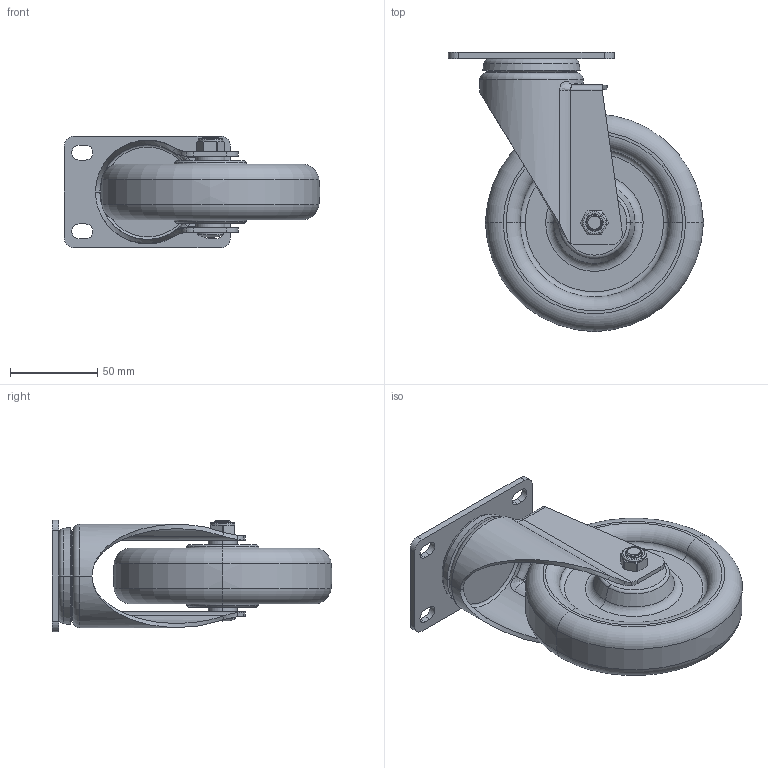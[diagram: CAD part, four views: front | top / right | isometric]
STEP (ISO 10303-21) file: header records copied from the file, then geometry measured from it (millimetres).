
FILE_DESCRIPTION((''),'2;1');
FILE_NAME('50115-505-86_ASM','2020-01-01T',('L'),(''),'PRO/ENGINEER BY PARAMETRIC TECHNOLOGY CORPORATION, 2010280','PRO/ENGINEER BY PARAMETRIC TECHNOLOGY CORPORATION, 2010280','');
FILE_SCHEMA(('CONFIG_CONTROL_DESIGN'));
Length unit declared in the file: millimetre
Products named in the file (5): 50115; 505-986; 570-33; 570-34; 50115-505-86_ASM
Assembly tree (4 placements, depth 2):
  50115-505-86_ASM
    50115
    505-986
    570-33
    570-34
Bounding box: 145.95 x 159.95 x 64 mm (x, y, z)
Volume: 369027 mm3; surface area: 82752.8 mm2
Topology: 4 solids, 4 shells, 224 faces, 531 edges, 325 vertices
Faces by surface type: cylinder 72, plane 57, torus 38, cone 28, bspline 27, sphere 2
Entity records: 11339 total; most frequent: CARTESIAN_POINT 6190, ORIENTED_EDGE 1058, DIRECTION 1039, EDGE_CURVE 529, AXIS2_PLACEMENT_3D 427, VERTEX_POINT 325, EDGE_LOOP 250, FACE_OUTER_BOUND 224
